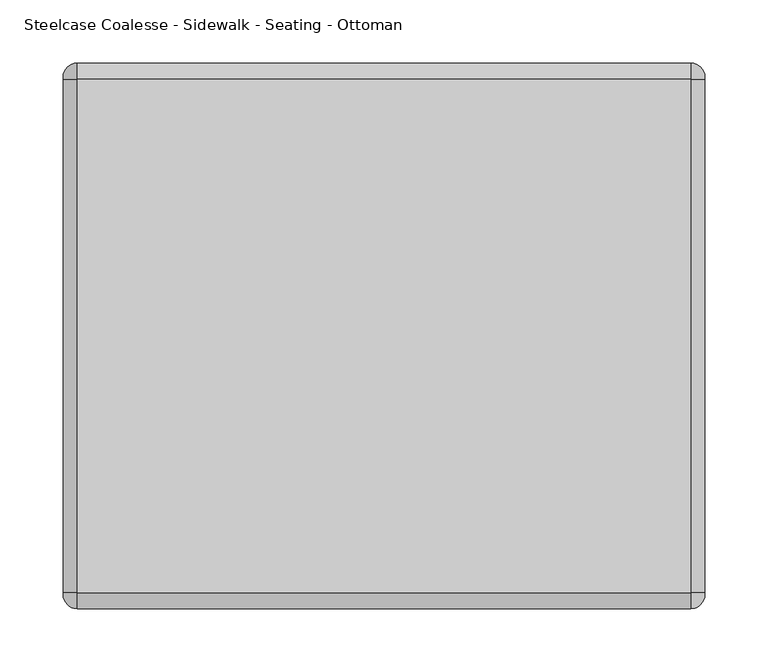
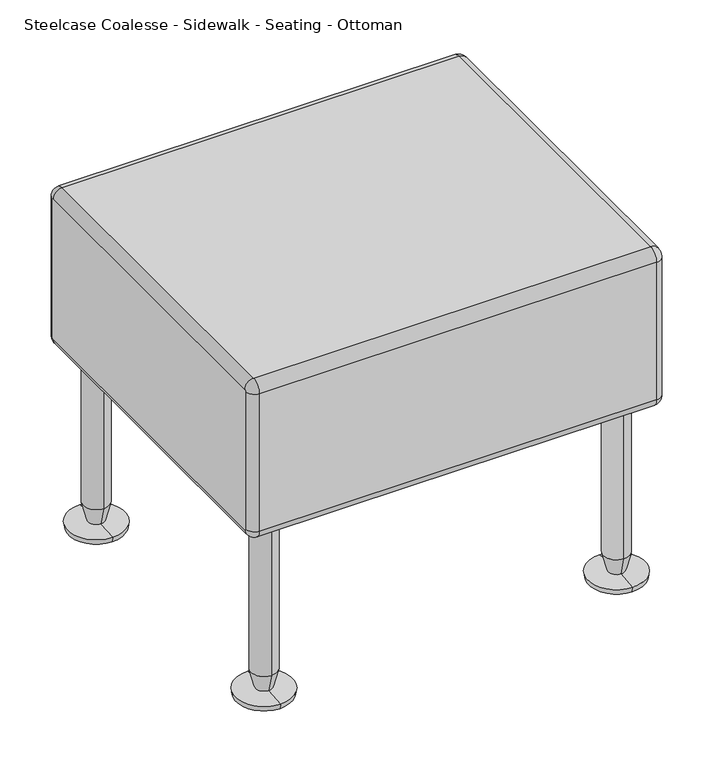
"""IFC4 building model written with IfcOpenShell, lengths in millimetres: furniture geometry, Steelcase Coalesse - Sidewalk - Seating - Ottoman : 17D x 20W."""

from ifc_helpers import new_model, si_unit, point, frame, origin, place, context, project, spatial, polyline, circle_curve, ellipse_curve, trimmed, source, transform, mapped, element, save
from ifc_brep_helpers import plane_surface, cylinder_surface, revolved_surface, advanced_brep


def steelcase_coalesse_sidewalk_seating_ottoman_751a6e7f(model_context):
    return source(origin(), model_context, "Body", "AdvancedBrep", [
        advanced_brep(
        [(465.8089794, -146.3050929, 420.6875), (465.8089794, -144.7175929, 419.1), (465.8089794, -144.7175929, 241.3), (465.8089794, -146.3050929, 239.7125), (465.8089794, -552.7050929, 239.7125), (465.8089794, -554.2925929, 241.3), (465.8089794, -554.2925929, 419.1), (465.8089794, -552.7050929, 420.6875), (973.8089794, -552.7050929, 420.6875), (973.8089794, -554.2925929, 419.1), (973.8089794, -554.2925929, 241.3), (973.8089794, -552.7050929, 239.7125), (973.8089794, -146.3050929, 239.7125), (973.8089794, -144.7175929, 241.3), (973.8089794, -144.7175929, 419.1), (973.8089794, -146.3050929, 420.6875), (476.9214794, -146.3050929, 431.8), (476.9214794, -552.7050929, 431.8), (962.6964794, -552.7050929, 431.8), (962.6964794, -146.3050929, 431.8), (476.9214794, -133.6050929, 419.1), (962.6964794, -133.6050929, 419.1), (476.9214794, -133.6050929, 241.3), (962.6964794, -133.6050929, 241.3), (476.9214794, -146.3050929, 228.6), (962.6964794, -146.3050929, 228.6), (476.9214794, -552.7050929, 228.6), (962.6964794, -552.7050929, 228.6), (476.9214794, -565.4050929, 241.3), (962.6964794, -565.4050929, 241.3), (476.9214794, -565.4050929, 419.1), (962.6964794, -565.4050929, 419.1)],
        [
            (0, 1, circle_curve(frame((465.8089794, -146.3050929, 419.1), z_axis=(-1.0, 0.0, 0.0), x_axis=(0.0, 0.0, 1.0)), 1.5875)),
            (1, 2),
            (2, 3, circle_curve(frame((465.8089794, -146.3050929, 241.3), z_axis=(-1.0, 0.0, 0.0), x_axis=(0.0, 1.0, 0.0)), 1.5875)),
            (3, 4),
            (4, 5, circle_curve(frame((465.8089794, -552.7050929, 241.3), z_axis=(-1.0, 0.0, 0.0), x_axis=(0.0, 0.0, -1.0)), 1.5875)),
            (5, 6),
            (6, 7, circle_curve(frame((465.8089794, -552.7050929, 419.1), z_axis=(-1.0, 0.0, 0.0), x_axis=(0.0, -1.0, 0.0)), 1.5875)),
            (7, 0),
            (8, 9, circle_curve(frame((973.8089794, -552.7050929, 419.1), z_axis=(1.0, 0.0, 0.0), x_axis=(0.0, 0.0, 1.0)), 1.5875)),
            (9, 10),
            (10, 11, circle_curve(frame((973.8089794, -552.7050929, 241.3), z_axis=(1.0, 0.0, 0.0), x_axis=(0.0, -1.0, 0.0)), 1.5875)),
            (11, 12),
            (12, 13, circle_curve(frame((973.8089794, -146.3050929, 241.3), z_axis=(1.0, 0.0, 0.0), x_axis=(0.0, 0.0, -1.0)), 1.5875)),
            (13, 14),
            (14, 15, circle_curve(frame((973.8089794, -146.3050929, 419.1), z_axis=(1.0, 0.0, 0.0), x_axis=(0.0, 1.0, 0.0)), 1.5875)),
            (15, 8),
            (16, 17),
            (17, 18),
            (18, 19),
            (19, 16),
            (20, 16, circle_curve(frame((476.9214794, -146.3050929, 419.1), z_axis=(1.0, 0.0, 0.0), x_axis=(0.0, -1.0, 0.0)), 12.7)),
            (19, 21, circle_curve(frame((962.6964794, -146.3050929, 419.1), z_axis=(-1.0, 0.0, 0.0), x_axis=(0.0, -1.0, 0.0)), 12.7)),
            (21, 20),
            (22, 20),
            (21, 23),
            (23, 22),
            (24, 22, circle_curve(frame((476.9214794, -146.3050929, 241.3), z_axis=(1.0, 0.0, 0.0), x_axis=(0.0, -1.0, 0.0)), 12.7)),
            (23, 25, circle_curve(frame((962.6964794, -146.3050929, 241.3), z_axis=(-1.0, 0.0, 0.0), x_axis=(0.0, -1.0, 0.0)), 12.7)),
            (25, 24),
            (26, 24),
            (25, 27),
            (27, 26),
            (28, 26, circle_curve(frame((476.9214794, -552.7050929, 241.3), z_axis=(1.0, 0.0, 0.0), x_axis=(0.0, -1.0, 0.0)), 12.7)),
            (27, 29, circle_curve(frame((962.6964794, -552.7050929, 241.3), z_axis=(-1.0, 0.0, 0.0), x_axis=(0.0, -1.0, 0.0)), 12.7)),
            (29, 28),
            (30, 28),
            (29, 31),
            (31, 30),
            (17, 30, circle_curve(frame((476.9214794, -552.7050929, 419.1), z_axis=(1.0, 0.0, 0.0), x_axis=(0.0, -1.0, 0.0)), 12.7)),
            (31, 18, circle_curve(frame((962.6964794, -552.7050929, 419.1), z_axis=(-1.0, 0.0, 0.0), x_axis=(0.0, -1.0, 0.0)), 12.7)),
            (20, 1, circle_curve(frame((476.9214794, -144.7175929, 419.1), z_axis=(0.0, 0.0, 1.0), x_axis=(0.0, -1.0, 0.0)), 11.1125)),
            (0, 16, circle_curve(frame((476.9214794, -146.3050929, 420.6875), z_axis=(0.0, 1.0, 0.0), x_axis=(0.0, 0.0, -1.0)), 11.1125)),
            (22, 2, circle_curve(frame((476.9214794, -144.7175929, 241.3), z_axis=(0.0, 0.0, 1.0), x_axis=(0.0, -1.0, 0.0)), 11.1125)),
            (24, 3, circle_curve(frame((476.9214794, -146.3050929, 239.7125), z_axis=(0.0, 1.0, 0.0), x_axis=(0.0, 0.0, 1.0)), 11.1125)),
            (26, 4, circle_curve(frame((476.9214794, -552.7050929, 239.7125), z_axis=(0.0, 1.0, 0.0), x_axis=(0.0, 0.0, 1.0)), 11.1125)),
            (28, 5, circle_curve(frame((476.9214794, -554.2925929, 241.3), z_axis=(0.0, 0.0, -1.0), x_axis=(0.0, 1.0, 0.0)), 11.1125)),
            (30, 6, circle_curve(frame((476.9214794, -554.2925929, 419.1), z_axis=(0.0, 0.0, -1.0), x_axis=(0.0, 1.0, 0.0)), 11.1125)),
            (17, 7, circle_curve(frame((476.9214794, -552.7050929, 420.6875), z_axis=(0.0, -1.0, 0.0), x_axis=(0.0, 0.0, -1.0)), 11.1125)),
            (31, 9, circle_curve(frame((962.6964794, -554.2925929, 419.1), z_axis=(0.0, 0.0, 1.0), x_axis=(0.0, -1.0, 0.0)), 11.1125)),
            (8, 18, circle_curve(frame((962.6964794, -552.7050929, 420.6875), z_axis=(0.0, -1.0, 0.0), x_axis=(0.0, 0.0, 1.0)), 11.1125)),
            (29, 10, circle_curve(frame((962.6964794, -554.2925929, 241.3), z_axis=(0.0, 0.0, 1.0), x_axis=(0.0, -1.0, 0.0)), 11.1125)),
            (27, 11, circle_curve(frame((962.6964794, -552.7050929, 239.7125), z_axis=(0.0, -1.0, 0.0), x_axis=(0.0, 0.0, -1.0)), 11.1125)),
            (25, 12, circle_curve(frame((962.6964794, -146.3050929, 239.7125), z_axis=(0.0, -1.0, 0.0), x_axis=(0.0, 0.0, -1.0)), 11.1125)),
            (23, 13, circle_curve(frame((962.6964794, -144.7175929, 241.3), z_axis=(0.0, 0.0, -1.0), x_axis=(0.0, 1.0, 0.0)), 11.1125)),
            (21, 14, circle_curve(frame((962.6964794, -144.7175929, 419.1), z_axis=(0.0, 0.0, -1.0), x_axis=(0.0, 1.0, 0.0)), 11.1125)),
            (19, 15, circle_curve(frame((962.6964794, -146.3050929, 420.6875), z_axis=(0.0, 1.0, 0.0), x_axis=(0.0, 0.0, 1.0)), 11.1125)),
        ],
        [
            plane_surface(frame((465.8089794, -146.3050929, 431.8), z_axis=(-1.0, 0.0, 0.0), x_axis=(0.0, 1.0, 0.0))),
            plane_surface(frame((973.8089794, -146.3050929, 431.8), z_axis=(1.0, 0.0, 0.0), x_axis=(0.0, -1.0, 0.0))),
            plane_surface(frame((465.8089794, -552.7050929, 431.8), z_axis=(0.0, 0.0, 1.0), x_axis=(1.0, 0.0, 0.0))),
            cylinder_surface(frame((973.8089794, -146.3050929, 419.1), z_axis=(-1.0, 0.0, 0.0), x_axis=(0.0, -1.0, 0.0)), 12.7),
            plane_surface(frame((465.8089794, -133.6050929, 419.1), z_axis=(0.0, 1.0, 0.0), x_axis=(1.0, 0.0, 0.0))),
            cylinder_surface(frame((973.8089794, -146.3050929, 241.3), z_axis=(-1.0, 0.0, 0.0), x_axis=(0.0, -1.0, 0.0)), 12.7),
            plane_surface(frame((465.8089794, -146.3050929, 228.6), z_axis=(0.0, 0.0, -1.0), x_axis=(1.0, 0.0, 0.0))),
            cylinder_surface(frame((973.8089794, -552.7050929, 241.3), z_axis=(-1.0, 0.0, 0.0), x_axis=(0.0, -1.0, 0.0)), 12.7),
            plane_surface(frame((465.8089794, -565.4050929, 241.3), z_axis=(0.0, -1.0, 0.0), x_axis=(1.0, 0.0, 0.0))),
            cylinder_surface(frame((973.8089794, -552.7050929, 419.1), z_axis=(-1.0, 0.0, 0.0), x_axis=(0.0, -1.0, 0.0)), 12.7),
            revolved_surface(trimmed(ellipse_curve(frame((476.9214794, -146.3050929, 420.6875), z_axis=(0.0, -1.0, 0.0), x_axis=(0.0, 0.0, -1.0)), 11.1125, 11.1125), [point((476.9214794, -146.3050929, 431.8))], [point((465.8089794, -146.3050929, 420.6875))], True, "CARTESIAN"), (465.8089794, -146.3050929, 419.1), (-1.0, 0.0, 0.0)),
            cylinder_surface(frame((476.9214794, -144.7175929, 419.1), z_axis=(0.0, 0.0, -1.0), x_axis=(0.0, -1.0, 0.0)), 11.1125),
            revolved_surface(trimmed(ellipse_curve(frame((476.9214794, -144.7175929, 241.3), z_axis=(0.0, 0.0, 1.0), x_axis=(0.0, -1.0, 0.0)), 11.1125, 11.1125), [point((476.9214794, -133.6050929, 241.3))], [point((465.8089794, -144.7175929, 241.3))], True, "CARTESIAN"), (465.8089794, -146.3050929, 241.3), (-1.0, 0.0, 0.0)),
            cylinder_surface(frame((476.9214794, -146.3050929, 239.7125), z_axis=(0.0, -1.0, 0.0), x_axis=(0.0, 0.0, 1.0)), 11.1125),
            revolved_surface(trimmed(ellipse_curve(frame((476.9214794, -552.7050929, 239.7125), z_axis=(0.0, 1.0, 0.0), x_axis=(0.0, 0.0, 1.0)), 11.1125, 11.1125), [point((476.9214794, -552.7050929, 228.6))], [point((465.8089794, -552.7050929, 239.7125))], True, "CARTESIAN"), (465.8089794, -552.7050929, 241.3), (-1.0, 0.0, 0.0)),
            cylinder_surface(frame((476.9214794, -554.2925929, 241.3), z_axis=(0.0, 0.0, 1.0), x_axis=(0.0, 1.0, 0.0)), 11.1125),
            revolved_surface(trimmed(ellipse_curve(frame((476.9214794, -554.2925929, 419.1), z_axis=(0.0, 0.0, -1.0), x_axis=(0.0, 1.0, 0.0)), 11.1125, 11.1125), [point((476.9214794, -565.4050929, 419.1))], [point((465.8089794, -554.2925929, 419.1))], True, "CARTESIAN"), (465.8089794, -552.7050929, 419.1), (-1.0, 0.0, 0.0)),
            cylinder_surface(frame((476.9214794, -552.7050929, 420.6875), z_axis=(0.0, 1.0, 0.0), x_axis=(0.0, 0.0, -1.0)), 11.1125),
            revolved_surface(trimmed(ellipse_curve(frame((962.6964794, -552.7050929, 420.6875), z_axis=(0.0, 1.0, 0.0), x_axis=(0.0, 0.0, 1.0)), 11.1125, 11.1125), [point((962.6964794, -552.7050929, 431.8))], [point((973.8089794, -552.7050929, 420.6875))], True, "CARTESIAN"), (973.8089794, -552.7050929, 419.1), (1.0, 0.0, 0.0)),
            cylinder_surface(frame((962.6964794, -554.2925929, 419.1), z_axis=(0.0, 0.0, -1.0), x_axis=(0.0, -1.0, 0.0)), 11.1125),
            revolved_surface(trimmed(ellipse_curve(frame((962.6964794, -554.2925929, 241.3), z_axis=(0.0, 0.0, 1.0), x_axis=(0.0, -1.0, 0.0)), 11.1125, 11.1125), [point((962.6964794, -565.4050929, 241.3))], [point((973.8089794, -554.2925929, 241.3))], True, "CARTESIAN"), (973.8089794, -552.7050929, 241.3), (1.0, 0.0, 0.0)),
            cylinder_surface(frame((962.6964794, -552.7050929, 239.7125), z_axis=(0.0, 1.0, 0.0), x_axis=(0.0, 0.0, -1.0)), 11.1125),
            revolved_surface(trimmed(ellipse_curve(frame((962.6964794, -146.3050929, 239.7125), z_axis=(0.0, -1.0, 0.0), x_axis=(0.0, 0.0, -1.0)), 11.1125, 11.1125), [point((962.6964794, -146.3050929, 228.6))], [point((973.8089794, -146.3050929, 239.7125))], True, "CARTESIAN"), (973.8089794, -146.3050929, 241.3), (1.0, 0.0, 0.0)),
            cylinder_surface(frame((962.6964794, -144.7175929, 241.3), z_axis=(0.0, 0.0, 1.0), x_axis=(0.0, 1.0, 0.0)), 11.1125),
            revolved_surface(trimmed(ellipse_curve(frame((962.6964794, -144.7175929, 419.1), z_axis=(0.0, 0.0, -1.0), x_axis=(0.0, 1.0, 0.0)), 11.1125, 11.1125), [point((962.6964794, -133.6050929, 419.1))], [point((973.8089794, -144.7175929, 419.1))], True, "CARTESIAN"), (973.8089794, -146.3050929, 419.1), (1.0, 0.0, 0.0)),
            cylinder_surface(frame((962.6964794, -146.3050929, 420.6875), z_axis=(0.0, -1.0, 0.0), x_axis=(0.0, 0.0, 1.0)), 11.1125),
        ],
        [
            (0, [[1, 2, 3, 4, 5, 6, 7, 8]]),
            (1, [[9, 10, 11, 12, 13, 14, 15, 16]]),
            (2, [[17, 18, 19, 20]]),
            (3, [[21, -20, 22, 23]]),
            (4, [[24, -23, 25, 26]]),
            (5, [[27, -26, 28, 29]]),
            (6, [[30, -29, 31, 32]]),
            (7, [[33, -32, 34, 35]]),
            (8, [[36, -35, 37, 38]]),
            (9, [[39, -38, 40, -18]]),
            (10, [[41, -1, 42, -21]]),
            (11, [[-41, -24, 43, -2]]),
            (12, [[-43, -27, 44, -3]]),
            (13, [[-44, -30, 45, -4]]),
            (14, [[-45, -33, 46, -5]]),
            (15, [[-46, -36, 47, -6]]),
            (16, [[-47, -39, 48, -7]]),
            (17, [[-42, -8, -48, -17]]),
            (18, [[49, -9, 50, -40]]),
            (19, [[-49, -37, 51, -10]]),
            (20, [[-51, -34, 52, -11]]),
            (21, [[-52, -31, 53, -12]]),
            (22, [[-53, -28, 54, -13]]),
            (23, [[-54, -25, 55, -14]]),
            (24, [[-55, -22, 56, -15]]),
            (25, [[-50, -16, -56, -19]]),
        ],
    ),
        advanced_brep(
        [(935.7089794, -187.5800929, 31.75), (935.7089794, -155.8300929, 31.75), (935.7089794, -155.8300929, 228.6), (935.7089794, -187.5800929, 228.6), (935.7089794, -181.5884463, 8.5001207), (935.7089794, -161.8217394, 8.5001207), (935.7089794, -206.6300929, 6.35), (935.7089794, -136.7800929, 6.35), (935.7089794, -205.5717596, 0.0), (935.7089794, -137.8384262, 0.0), (935.7089794, -171.7050929, 0.0), (935.7089794, -171.7050929, 228.6)],
        [
            (0, 1, circle_curve(frame((935.7089794, -171.7050929, 31.75), z_axis=(0.0, 0.0, 1.0), x_axis=(0.0, 1.0, 0.0)), 15.875)),
            (1, 2),
            (2, 3, circle_curve(frame((935.7089794, -171.7050929, 228.6), z_axis=(0.0, 0.0, -1.0), x_axis=(0.0, 1.0, 0.0)), 15.875)),
            (3, 0),
            (1, 0, circle_curve(frame((935.7089794, -171.7050929, 31.75), z_axis=(0.0, 0.0, 1.0), x_axis=(0.0, 1.0, 0.0)), 15.875)),
            (3, 2, circle_curve(frame((935.7089794, -171.7050929, 228.6), z_axis=(0.0, 0.0, -1.0), x_axis=(0.0, 1.0, 0.0)), 15.875)),
            (4, 5, circle_curve(frame((935.7089794, -171.7050929, 8.5001207), z_axis=(0.0, 0.0, 1.0), x_axis=(0.0, 1.0, 0.0)), 9.8833534)),
            (5, 1),
            (0, 4),
            (5, 4, circle_curve(frame((935.7089794, -171.7050929, 8.5001207), z_axis=(0.0, 0.0, 1.0), x_axis=(0.0, 1.0, 0.0)), 9.8833534)),
            (6, 7, circle_curve(frame((935.7089794, -171.7050929, 6.35), z_axis=(0.0, 0.0, 1.0), x_axis=(0.0, 1.0, 0.0)), 34.925)),
            (7, 5),
            (4, 6),
            (7, 6, circle_curve(frame((935.7089794, -171.7050929, 6.35), z_axis=(0.0, 0.0, 1.0), x_axis=(0.0, 1.0, 0.0)), 34.925)),
            (8, 9, circle_curve(frame((935.7089794, -171.7050929, 0.0), z_axis=(0.0, 0.0, 1.0), x_axis=(0.0, 1.0, 0.0)), 33.8666667)),
            (9, 7),
            (6, 8),
            (9, 8, circle_curve(frame((935.7089794, -171.7050929, 0.0), z_axis=(0.0, 0.0, 1.0), x_axis=(0.0, 1.0, 0.0)), 33.8666667)),
            (10, 9),
            (8, 10),
            (2, 11),
            (11, 3),
        ],
        [
            cylinder_surface(frame((935.7089794, -171.7050929, -95.25), z_axis=(0.0, 0.0, -1.0), x_axis=(0.0, 1.0, 0.0)), 15.875),
            revolved_surface(polyline([(935.7089794, -155.8300929, 31.75), (935.7089794, -161.8217394, 8.5001207)]), (935.7089794, -171.7050929, -95.25), (0.0, 0.0, -1.0)),
            revolved_surface(polyline([(935.7089794, -161.8217394, 8.5001207), (935.7089794, -136.7800929, 6.35)]), (935.7089794, -171.7050929, -95.25), (0.0, 0.0, -1.0)),
            revolved_surface(polyline([(935.7089794, -136.7800929, 6.35), (935.7089794, -137.8384262, 0.0)]), (935.7089794, -171.7050929, -95.25), (0.0, 0.0, -1.0)),
            plane_surface(frame((935.7089794, -171.7050929, 0.0), z_axis=(0.0, 0.0, -1.0), x_axis=(0.0, 1.0, 0.0))),
            plane_surface(frame((935.7089794, -171.7050929, 228.6), z_axis=(0.0, 0.0, 1.0), x_axis=(0.0, 1.0, 0.0))),
        ],
        [
            (0, [[1, 2, 3, 4]]),
            (0, [[5, -4, 6, -2]]),
            (1, [[7, 8, -1, 9]]),
            (1, [[10, -9, -5, -8]]),
            (2, [[11, 12, -7, 13]]),
            (2, [[14, -13, -10, -12]]),
            (3, [[15, 16, -11, 17]]),
            (3, [[18, -17, -14, -16]]),
            (4, [[19, -15, 20]]),
            (4, [[-20, -18, -19]]),
            (5, [[-3, 21, 22]]),
            (5, [[-6, -22, -21]]),
        ],
    ),
        advanced_brep(
        [(503.9089794, -171.7050929, 228.6), (503.9089794, -155.8300929, 228.6), (503.9089794, -187.5800929, 228.6), (503.9089794, -205.5717596, 0.0), (503.9089794, -137.8384262, 0.0), (503.9089794, -171.7050929, 0.0), (503.9089794, -206.6300929, 6.35), (503.9089794, -136.7800929, 6.35), (503.9089794, -181.5884463, 8.5001207), (503.9089794, -161.8217394, 8.5001207), (503.9089794, -187.5800929, 31.75), (503.9089794, -155.8300929, 31.75)],
        [
            (0, 1),
            (1, 2, circle_curve(frame((503.9089794, -171.7050929, 228.6), z_axis=(0.0, 0.0, 1.0), x_axis=(0.0, 1.0, 0.0)), 15.875)),
            (2, 0),
            (2, 1, circle_curve(frame((503.9089794, -171.7050929, 228.6), z_axis=(0.0, 0.0, 1.0), x_axis=(0.0, 1.0, 0.0)), 15.875)),
            (3, 4, circle_curve(frame((503.9089794, -171.7050929, 0.0), z_axis=(0.0, 0.0, -1.0), x_axis=(0.0, 1.0, 0.0)), 33.8666667)),
            (4, 5),
            (5, 3),
            (4, 3, circle_curve(frame((503.9089794, -171.7050929, 0.0), z_axis=(0.0, 0.0, -1.0), x_axis=(0.0, 1.0, 0.0)), 33.8666667)),
            (6, 7, circle_curve(frame((503.9089794, -171.7050929, 6.35), z_axis=(0.0, 0.0, -1.0), x_axis=(0.0, 1.0, 0.0)), 34.925)),
            (7, 4),
            (3, 6),
            (7, 6, circle_curve(frame((503.9089794, -171.7050929, 6.35), z_axis=(0.0, 0.0, -1.0), x_axis=(0.0, 1.0, 0.0)), 34.925)),
            (8, 9, circle_curve(frame((503.9089794, -171.7050929, 8.5001207), z_axis=(0.0, 0.0, -1.0), x_axis=(0.0, 1.0, 0.0)), 9.8833534)),
            (9, 7),
            (6, 8),
            (9, 8, circle_curve(frame((503.9089794, -171.7050929, 8.5001207), z_axis=(0.0, 0.0, -1.0), x_axis=(0.0, 1.0, 0.0)), 9.8833534)),
            (10, 11, circle_curve(frame((503.9089794, -171.7050929, 31.75), z_axis=(0.0, 0.0, -1.0), x_axis=(0.0, 1.0, 0.0)), 15.875)),
            (11, 9),
            (8, 10),
            (11, 10, circle_curve(frame((503.9089794, -171.7050929, 31.75), z_axis=(0.0, 0.0, -1.0), x_axis=(0.0, 1.0, 0.0)), 15.875)),
            (1, 11),
            (10, 2),
        ],
        [
            plane_surface(frame((503.9089794, -171.7050929, 228.6), z_axis=(0.0, 0.0, 1.0), x_axis=(0.0, 1.0, 0.0))),
            plane_surface(frame((503.9089794, -171.7050929, 0.0), z_axis=(0.0, 0.0, -1.0), x_axis=(0.0, 1.0, 0.0))),
            revolved_surface(polyline([(503.9089794, -137.8384262, 0.0), (503.9089794, -136.7800929, 6.35)]), (503.9089794, -171.7050929, -95.25), (0.0, 0.0, 1.0)),
            revolved_surface(polyline([(503.9089794, -136.7800929, 6.35), (503.9089794, -161.8217394, 8.5001207)]), (503.9089794, -171.7050929, -95.25), (0.0, 0.0, 1.0)),
            revolved_surface(polyline([(503.9089794, -161.8217394, 8.5001207), (503.9089794, -155.8300929, 31.75)]), (503.9089794, -171.7050929, -95.25), (0.0, 0.0, 1.0)),
            cylinder_surface(frame((503.9089794, -171.7050929, -95.25), z_axis=(0.0, 0.0, 1.0), x_axis=(0.0, 1.0, 0.0)), 15.875),
        ],
        [
            (0, [[1, 2, 3]]),
            (0, [[-3, 4, -1]]),
            (1, [[5, 6, 7]]),
            (1, [[8, -7, -6]]),
            (2, [[9, 10, -5, 11]]),
            (2, [[12, -11, -8, -10]]),
            (3, [[13, 14, -9, 15]]),
            (3, [[16, -15, -12, -14]]),
            (4, [[17, 18, -13, 19]]),
            (4, [[20, -19, -16, -18]]),
            (5, [[-2, 21, -17, 22]]),
            (5, [[-4, -22, -20, -21]]),
        ],
    ),
        advanced_brep(
        [(935.7089794, -543.1800929, 31.75), (935.7089794, -511.4300929, 31.75), (935.7089794, -511.4300929, 228.6), (935.7089794, -543.1800929, 228.6), (935.7089794, -537.1884463, 8.5001207), (935.7089794, -517.4217394, 8.5001207), (935.7089794, -562.2300929, 6.35), (935.7089794, -492.3800929, 6.35), (935.7089794, -561.1717596, 0.0), (935.7089794, -493.4384262, 0.0), (935.7089794, -527.3050929, 0.0), (935.7089794, -527.3050929, 228.6)],
        [
            (0, 1, circle_curve(frame((935.7089794, -527.3050929, 31.75), z_axis=(0.0, 0.0, 1.0), x_axis=(0.0, 1.0, 0.0)), 15.875)),
            (1, 2),
            (2, 3, circle_curve(frame((935.7089794, -527.3050929, 228.6), z_axis=(0.0, 0.0, -1.0), x_axis=(0.0, 1.0, 0.0)), 15.875)),
            (3, 0),
            (1, 0, circle_curve(frame((935.7089794, -527.3050929, 31.75), z_axis=(0.0, 0.0, 1.0), x_axis=(0.0, 1.0, 0.0)), 15.875)),
            (3, 2, circle_curve(frame((935.7089794, -527.3050929, 228.6), z_axis=(0.0, 0.0, -1.0), x_axis=(0.0, 1.0, 0.0)), 15.875)),
            (4, 5, circle_curve(frame((935.7089794, -527.3050929, 8.5001207), z_axis=(0.0, 0.0, 1.0), x_axis=(0.0, 1.0, 0.0)), 9.8833534)),
            (5, 1),
            (0, 4),
            (5, 4, circle_curve(frame((935.7089794, -527.3050929, 8.5001207), z_axis=(0.0, 0.0, 1.0), x_axis=(0.0, 1.0, 0.0)), 9.8833534)),
            (6, 7, circle_curve(frame((935.7089794, -527.3050929, 6.35), z_axis=(0.0, 0.0, 1.0), x_axis=(0.0, 1.0, 0.0)), 34.925)),
            (7, 5),
            (4, 6),
            (7, 6, circle_curve(frame((935.7089794, -527.3050929, 6.35), z_axis=(0.0, 0.0, 1.0), x_axis=(0.0, 1.0, 0.0)), 34.925)),
            (8, 9, circle_curve(frame((935.7089794, -527.3050929, 0.0), z_axis=(0.0, 0.0, 1.0), x_axis=(0.0, 1.0, 0.0)), 33.8666667)),
            (9, 7),
            (6, 8),
            (9, 8, circle_curve(frame((935.7089794, -527.3050929, 0.0), z_axis=(0.0, 0.0, 1.0), x_axis=(0.0, 1.0, 0.0)), 33.8666667)),
            (10, 9),
            (8, 10),
            (2, 11),
            (11, 3),
        ],
        [
            cylinder_surface(frame((935.7089794, -527.3050929, -95.25), z_axis=(0.0, 0.0, -1.0), x_axis=(0.0, 1.0, 0.0)), 15.875),
            revolved_surface(polyline([(935.7089794, -511.4300929, 31.75), (935.7089794, -517.4217394, 8.5001207)]), (935.7089794, -527.3050929, -95.25), (0.0, 0.0, -1.0)),
            revolved_surface(polyline([(935.7089794, -517.4217394, 8.5001207), (935.7089794, -492.3800929, 6.35)]), (935.7089794, -527.3050929, -95.25), (0.0, 0.0, -1.0)),
            revolved_surface(polyline([(935.7089794, -492.3800929, 6.35), (935.7089794, -493.4384262, 0.0)]), (935.7089794, -527.3050929, -95.25), (0.0, 0.0, -1.0)),
            plane_surface(frame((935.7089794, -527.3050929, 0.0), z_axis=(0.0, 0.0, -1.0), x_axis=(0.0, 1.0, 0.0))),
            plane_surface(frame((935.7089794, -527.3050929, 228.6), z_axis=(0.0, 0.0, 1.0), x_axis=(0.0, 1.0, 0.0))),
        ],
        [
            (0, [[1, 2, 3, 4]]),
            (0, [[5, -4, 6, -2]]),
            (1, [[7, 8, -1, 9]]),
            (1, [[10, -9, -5, -8]]),
            (2, [[11, 12, -7, 13]]),
            (2, [[14, -13, -10, -12]]),
            (3, [[15, 16, -11, 17]]),
            (3, [[18, -17, -14, -16]]),
            (4, [[19, -15, 20]]),
            (4, [[-20, -18, -19]]),
            (5, [[-3, 21, 22]]),
            (5, [[-6, -22, -21]]),
        ],
    ),
        advanced_brep(
        [(503.9089794, -527.3050929, 228.6), (503.9089794, -511.4300929, 228.6), (503.9089794, -543.1800929, 228.6), (503.9089794, -561.1717596, 0.0), (503.9089794, -493.4384262, 0.0), (503.9089794, -527.3050929, 0.0), (503.9089794, -562.2300929, 6.35), (503.9089794, -492.3800929, 6.35), (503.9089794, -537.1884463, 8.5001207), (503.9089794, -517.4217394, 8.5001207), (503.9089794, -543.1800929, 31.75), (503.9089794, -511.4300929, 31.75)],
        [
            (0, 1),
            (1, 2, circle_curve(frame((503.9089794, -527.3050929, 228.6), z_axis=(0.0, 0.0, 1.0), x_axis=(0.0, 1.0, 0.0)), 15.875)),
            (2, 0),
            (2, 1, circle_curve(frame((503.9089794, -527.3050929, 228.6), z_axis=(0.0, 0.0, 1.0), x_axis=(0.0, 1.0, 0.0)), 15.875)),
            (3, 4, circle_curve(frame((503.9089794, -527.3050929, 0.0), z_axis=(0.0, 0.0, -1.0), x_axis=(0.0, 1.0, 0.0)), 33.8666667)),
            (4, 5),
            (5, 3),
            (4, 3, circle_curve(frame((503.9089794, -527.3050929, 0.0), z_axis=(0.0, 0.0, -1.0), x_axis=(0.0, 1.0, 0.0)), 33.8666667)),
            (6, 7, circle_curve(frame((503.9089794, -527.3050929, 6.35), z_axis=(0.0, 0.0, -1.0), x_axis=(0.0, 1.0, 0.0)), 34.925)),
            (7, 4),
            (3, 6),
            (7, 6, circle_curve(frame((503.9089794, -527.3050929, 6.35), z_axis=(0.0, 0.0, -1.0), x_axis=(0.0, 1.0, 0.0)), 34.925)),
            (8, 9, circle_curve(frame((503.9089794, -527.3050929, 8.5001207), z_axis=(0.0, 0.0, -1.0), x_axis=(0.0, 1.0, 0.0)), 9.8833534)),
            (9, 7),
            (6, 8),
            (9, 8, circle_curve(frame((503.9089794, -527.3050929, 8.5001207), z_axis=(0.0, 0.0, -1.0), x_axis=(0.0, 1.0, 0.0)), 9.8833534)),
            (10, 11, circle_curve(frame((503.9089794, -527.3050929, 31.75), z_axis=(0.0, 0.0, -1.0), x_axis=(0.0, 1.0, 0.0)), 15.875)),
            (11, 9),
            (8, 10),
            (11, 10, circle_curve(frame((503.9089794, -527.3050929, 31.75), z_axis=(0.0, 0.0, -1.0), x_axis=(0.0, 1.0, 0.0)), 15.875)),
            (1, 11),
            (10, 2),
        ],
        [
            plane_surface(frame((503.9089794, -527.3050929, 228.6), z_axis=(0.0, 0.0, 1.0), x_axis=(0.0, 1.0, 0.0))),
            plane_surface(frame((503.9089794, -527.3050929, 0.0), z_axis=(0.0, 0.0, -1.0), x_axis=(0.0, 1.0, 0.0))),
            revolved_surface(polyline([(503.9089794, -493.4384262, 0.0), (503.9089794, -492.3800929, 6.35)]), (503.9089794, -527.3050929, -95.25), (0.0, 0.0, 1.0)),
            revolved_surface(polyline([(503.9089794, -492.3800929, 6.35), (503.9089794, -517.4217394, 8.5001207)]), (503.9089794, -527.3050929, -95.25), (0.0, 0.0, 1.0)),
            revolved_surface(polyline([(503.9089794, -517.4217394, 8.5001207), (503.9089794, -511.4300929, 31.75)]), (503.9089794, -527.3050929, -95.25), (0.0, 0.0, 1.0)),
            cylinder_surface(frame((503.9089794, -527.3050929, -95.25), z_axis=(0.0, 0.0, 1.0), x_axis=(0.0, 1.0, 0.0)), 15.875),
        ],
        [
            (0, [[1, 2, 3]]),
            (0, [[-3, 4, -1]]),
            (1, [[5, 6, 7]]),
            (1, [[8, -7, -6]]),
            (2, [[9, 10, -5, 11]]),
            (2, [[12, -11, -8, -10]]),
            (3, [[13, 14, -9, 15]]),
            (3, [[16, -15, -12, -14]]),
            (4, [[17, 18, -13, 19]]),
            (4, [[20, -19, -16, -18]]),
            (5, [[-2, 21, -17, 22]]),
            (5, [[-4, -22, -20, -21]]),
        ],
    ),
    ])


if __name__ == "__main__":
    model = new_model("IFC4")
    model_context = context("Model", 3, world=origin())
    ifc_project = project(units=[si_unit("LENGTHUNIT", "METRE", prefix="MILLI")], contexts=[model_context])
    site = spatial("IfcSite", under=ifc_project)
    building = spatial("IfcBuilding", under=site)
    placement = place(None, origin())
    steelcase_coalesse_sidewalk_seating_ottoman_shape = steelcase_coalesse_sidewalk_seating_ottoman_751a6e7f(model_context)
    element("IfcFurniture", 1, ObjectType="Steelcase Coalesse - Sidewalk - Seating - Ottoman : 17D x 20W", at=placement, inside=building, context=model_context, shape_type="MappedRepresentation", body=[
        mapped(steelcase_coalesse_sidewalk_seating_ottoman_shape, transform((0.0, 0.0, 0.0), x_axis=(1.0, 0.0, 0.0), y_axis=(0.0, 1.0, 0.0), z_axis=(0.0, 0.0, 1.0))),
    ])
    save(model, "model.ifc")
